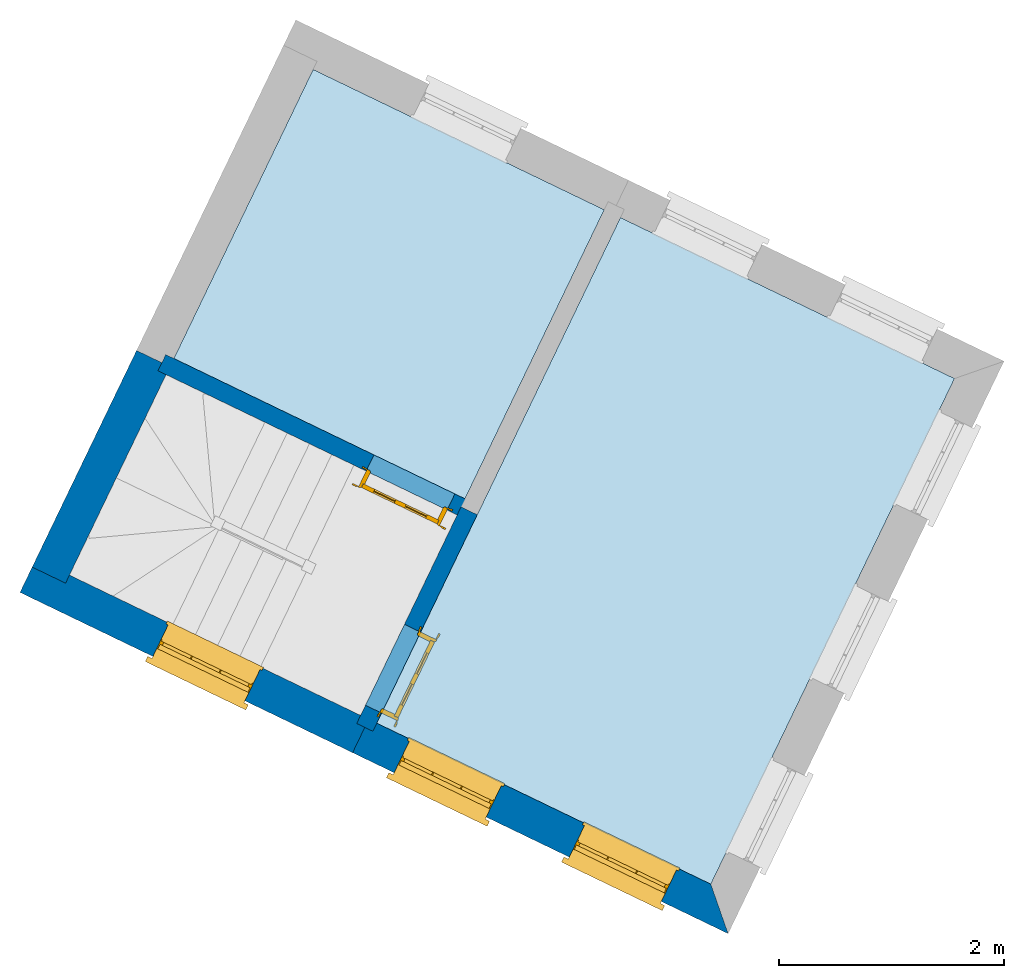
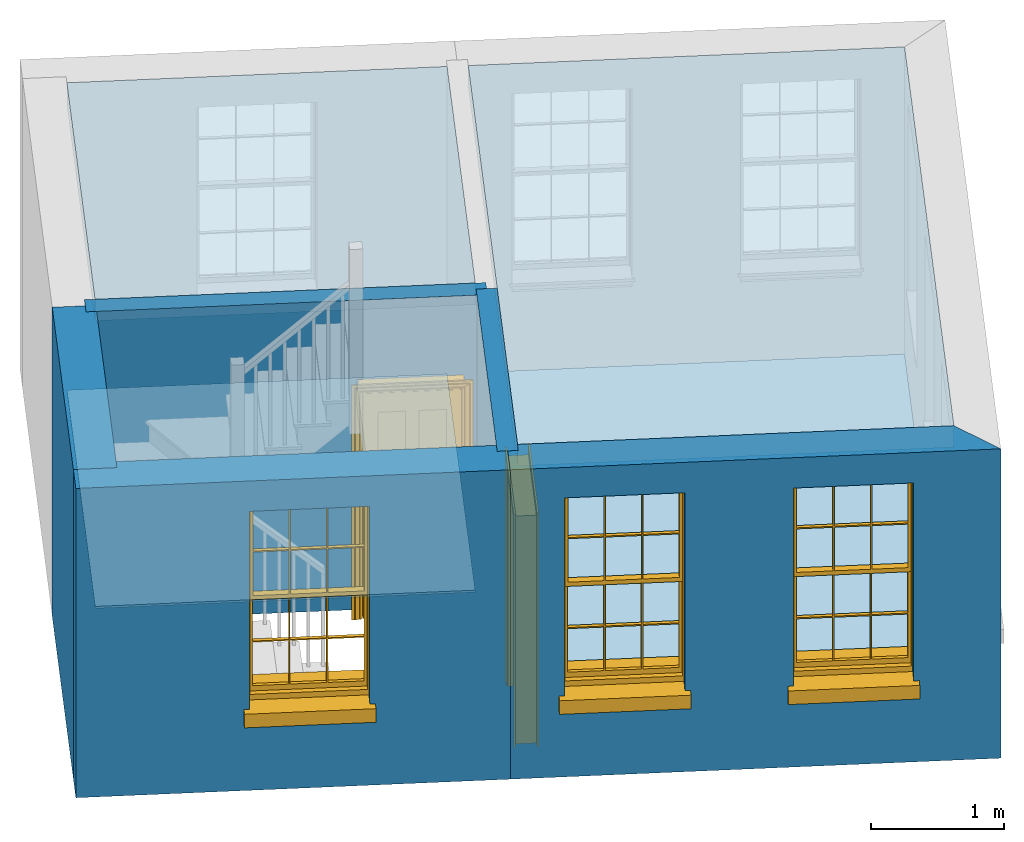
# One storey, part 1 of 3: 5 walls, 4 slabs, 3 windows, 2 doors, 5 openings.
"""IFC4 building model written with IfcOpenShell, lengths in metres."""

import ifcopenshell
import ifcopenshell.guid

model = None  # the IFC model being written
_history = None  # IfcOwnerHistory: only IFC2X3 demands one
_inside = {}  # id of a spatial element -> (the spatial element, [elements in it])
_under = {}  # id of a project, library or spatial element -> (it, [spatial elements below it])
_declared = {}  # id of a project -> (the project, [libraries it declares])
_typed = {}  # id of a type object -> (the type object, [elements of that type])
_made_of = {}  # id of a material, layer set ... -> (it, [elements and type objects made of it])


def new_model(schema):
    """Start an empty IFC model of exactly this schema.

    Asked for "IFC4X3", IfcOpenShell would pick the latest addendum, in which some entities
    have other attributes; the version numbers below select the first issue.
    IFC2X3 requires an IfcOwnerHistory on every rooted entity: one is made here for all.
    """
    global model, _history
    if schema == "IFC4X3":
        model = ifcopenshell.file(schema_version=(4, 3, 0, 0))
    else:
        model = ifcopenshell.file(schema=schema)
    _inside.clear()
    _under.clear()
    _declared.clear()
    _typed.clear()
    _made_of.clear()
    _history = None
    if model.schema == "IFC2X3":
        org = make("IfcOrganization", Name="unknown")
        user = make(
            "IfcPersonAndOrganization",
            ThePerson=make("IfcPerson", FamilyName="unknown"),
            TheOrganization=org,
        )
        app = make(
            "IfcApplication",
            ApplicationDeveloper=org,
            Version="unknown",
            ApplicationFullName="unknown",
            ApplicationIdentifier="unknown",
        )
        _history = make(
            "IfcOwnerHistory",
            OwningUser=user,
            OwningApplication=app,
            ChangeAction="ADDED",
            CreationDate=0,
        )
    return model


def make(cls, **values):
    """One entity of the class cls with the attributes given. An attribute that is None is left unset."""
    return model.create_entity(
        cls, **{name: value for name, value in values.items() if value is not None}
    )


def rooted(cls, **values):
    """An entity with a GlobalId (a new one), such as an element, a storey or a relation."""
    return make(cls, GlobalId=ifcopenshell.guid.new(), OwnerHistory=_history, **values)


def si_unit(unit_type, name, prefix=None):
    """IfcSIUnit, for example si_unit("LENGTHUNIT", "METRE", prefix="MILLI")."""
    return make("IfcSIUnit", UnitType=unit_type, Prefix=prefix, Name=name)


def assignment(units):
    """IfcUnitAssignment: the units of a project."""
    return None if units is None else make("IfcUnitAssignment", Units=units)


def point(xyz):
    """IfcCartesianPoint."""
    return None if xyz is None else make("IfcCartesianPoint", Coordinates=xyz)


def direction(xyz):
    """IfcDirection."""
    return None if xyz is None else make("IfcDirection", DirectionRatios=xyz)


def frame(location, z_axis=None, x_axis=None):
    """IfcAxis2Placement3D, a coordinate frame: its origin and axes. An axis left out is left unset."""
    return make(
        "IfcAxis2Placement3D",
        Location=point(location),
        Axis=direction(z_axis),
        RefDirection=direction(x_axis),
    )


def origin():
    """The frame at (0, 0, 0) with its axes left unset."""
    return frame((0.0, 0.0, 0.0))


def origin_with_axes():
    """The frame at (0, 0, 0) with the z axis (0, 0, 1) and the x axis (1, 0, 0) written out."""
    return frame((0.0, 0.0, 0.0), z_axis=(0.0, 0.0, 1.0), x_axis=(1.0, 0.0, 0.0))


def place(relative_to, where):
    """IfcLocalPlacement: puts the frame where relative to a parent placement (None: the world)."""
    return make(
        "IfcLocalPlacement", PlacementRelTo=relative_to, RelativePlacement=where
    )


def context(
    kind, dimensions, precision=None, world=None, true_north=None, identifier=None
):
    """IfcGeometricRepresentationContext, for example the 3D "Model" context."""
    return make(
        "IfcGeometricRepresentationContext",
        ContextIdentifier=identifier,
        ContextType=kind,
        CoordinateSpaceDimension=dimensions,
        Precision=precision,
        WorldCoordinateSystem=world,
        TrueNorth=true_north,
    )


def subcontext(parent, identifier, kind, view, scale=None):
    """IfcGeometricRepresentationSubContext, for example "Body" below "Model"."""
    return make(
        "IfcGeometricRepresentationSubContext",
        ContextIdentifier=identifier,
        ContextType=kind,
        ParentContext=parent,
        TargetScale=scale,
        TargetView=view,
    )


def project(units=None, contexts=None):
    """IfcProject with its units and contexts."""
    return rooted(
        "IfcProject",
        Name="project",
        RepresentationContexts=contexts,
        UnitsInContext=assignment(units),
    )


def spatial(cls, under=None, at=None, **own):
    """A site, building, storey or space (cls), placed at a placement, below another one or the project."""
    s = rooted(cls, ObjectPlacement=at, **own)
    if under is not None:
        _under.setdefault(under.id(), (under, []))[1].append(s)
    return s


def polyline(points):
    """IfcPolyline through the points."""
    return make("IfcPolyline", Points=[point(p) for p in points])


def outline(outer, holes=None, kind="AREA"):
    """IfcArbitraryClosedProfileDef: a profile drawn as a closed curve; with holes, ...WithVoids."""
    if holes is None:
        return make("IfcArbitraryClosedProfileDef", ProfileType=kind, OuterCurve=outer)
    return make(
        "IfcArbitraryProfileDefWithVoids",
        ProfileType=kind,
        OuterCurve=outer,
        InnerCurves=holes,
    )


def extrude(swept, where, along, depth):
    """IfcExtrudedAreaSolid: the profile swept, set in the frame where, extruded along a direction by depth."""
    return make(
        "IfcExtrudedAreaSolid",
        SweptArea=swept,
        Position=where,
        ExtrudedDirection=direction(along),
        Depth=depth,
    )


def faces_of(points, faces, orient=None, outer=None):
    """IfcFace entities. A face is a list of loops; a loop is a list of indices into points, from 0.

    orient and outer hold one flag for each loop. By default every Orientation is true, the
    first loop of a face is its IfcFaceOuterBound and the others are IfcFaceBound.
    """
    made = []
    for i, loops in enumerate(faces):
        bounds = []
        for j, loop in enumerate(loops):
            is_outer = j == 0 if outer is None else outer[i][j]
            bounds.append(
                make(
                    "IfcFaceOuterBound" if is_outer else "IfcFaceBound",
                    Bound=make("IfcPolyLoop", Polygon=[points[k] for k in loop]),
                    Orientation=True if orient is None else orient[i][j],
                )
            )
        made.append(make("IfcFace", Bounds=bounds))
    return made


def faceted_brep(points, faces, orient=None, outer=None, voids=None):
    """IfcFacetedBrep: a solid bounded by flat faces; with voids (closed shells), ...WithVoids."""
    shared = [point(p) for p in points]
    hull = make("IfcClosedShell", CfsFaces=faces_of(shared, faces, orient, outer))
    if voids is None:
        return make("IfcFacetedBrep", Outer=hull)
    return make(
        "IfcFacetedBrepWithVoids",
        Outer=hull,
        Voids=[
            make(cls, CfsFaces=faces_of(shared, fs, o, b)) for cls, fs, o, b in voids
        ],
    )


def shape(context_of_items, identifier, shape_type, items):
    """IfcShapeRepresentation: the items that make up one representation, for example the "Body"."""
    return make(
        "IfcShapeRepresentation",
        ContextOfItems=context_of_items,
        RepresentationIdentifier=identifier,
        RepresentationType=shape_type,
        Items=items,
    )


def source(mapping_origin, context_of_items, identifier, shape_type, items):
    """IfcRepresentationMap: a shape defined once, which mapped items show again and again."""
    return make(
        "IfcRepresentationMap",
        MappingOrigin=mapping_origin,
        MappedRepresentation=shape(context_of_items, identifier, shape_type, items),
    )


def transform(
    local_origin,
    x_axis=None,
    y_axis=None,
    z_axis=None,
    scale=None,
    scale2=None,
    scale3=None,
    uniform=True,
):
    """IfcCartesianTransformationOperator3D, or its non-uniform kind. x_axis, y_axis, z_axis: its Axis1, 2, 3."""
    if uniform:
        return make(
            "IfcCartesianTransformationOperator3D",
            Axis1=direction(x_axis),
            Axis2=direction(y_axis),
            LocalOrigin=point(local_origin),
            Scale=scale,
            Axis3=direction(z_axis),
        )
    return make(
        "IfcCartesianTransformationOperator3DnonUniform",
        Axis1=direction(x_axis),
        Axis2=direction(y_axis),
        LocalOrigin=point(local_origin),
        Scale=scale,
        Axis3=direction(z_axis),
        Scale2=scale2,
        Scale3=scale3,
    )


def mapped(mapping_source, mapping_target):
    """IfcMappedItem: shows the shape of a source again, moved by a transform."""
    return make(
        "IfcMappedItem", MappingSource=mapping_source, MappingTarget=mapping_target
    )


def material(Name=None, Category=None):
    """IfcMaterial."""
    return make("IfcMaterial", Name=Name, Category=Category)


def layer(
    of_material, thickness, ventilated=None, Name=None, Category=None, Priority=None
):
    """IfcMaterialLayer: one layer of a wall or slab, of a material (None: an air gap)."""
    return make(
        "IfcMaterialLayer",
        Material=of_material,
        LayerThickness=thickness,
        IsVentilated=ventilated,
        Name=Name,
        Category=Category,
        Priority=Priority,
    )


def layer_set(layers, Name=None):
    """IfcMaterialLayerSet."""
    return make("IfcMaterialLayerSet", MaterialLayers=layers, LayerSetName=Name)


def layer_usage(for_layer_set, set_direction, sense, offset, extent=None):
    """IfcMaterialLayerSetUsage: how a layer set lies in its element."""
    return make(
        "IfcMaterialLayerSetUsage",
        ForLayerSet=for_layer_set,
        LayerSetDirection=set_direction,
        DirectionSense=sense,
        OffsetFromReferenceLine=offset,
        ReferenceExtent=extent,
    )


def made_of(thing, what):
    """Note that an element or type object is made of a material, layer set ...; save() writes the relation."""
    if what is not None:
        _made_of.setdefault(what.id(), (what, []))[1].append(thing)
    return thing


def type_object(cls, material=None, **own):
    """A type object (cls), such as IfcWallType, which elements share."""
    return made_of(rooted(cls, **own), material)


def type_shapes(of_type, sources):
    """Give a type object the sources (RepresentationMaps) that its elements show as mapped items."""
    of_type.RepresentationMaps = sources


def element(
    cls,
    number,
    at=None,
    inside=None,
    cuts=None,
    type_object=None,
    material=None,
    context=None,
    identifier="Body",
    shape_type=None,
    held_by="IfcProductDefinitionShape",
    body=None,
    shapes=None,
    **own,
):
    """One element of the class cls, such as IfcWall. Its Tag is "e" and its number.

    at: its placement. inside: the storey or other place that contains it. cuts: it is an
    opening in that element (IfcRelVoidsElement). A single representation is given by context,
    identifier, shape_type and body (its items); several are given by shapes. held_by: the class
    of the entity that holds the representations. save() writes the other relations.
    """
    e = rooted(cls, Tag="e%d" % number, ObjectPlacement=at, **own)
    if body is not None:
        shapes = [shape(context, identifier, shape_type, body)]
    if shapes is not None:
        e.Representation = make(held_by, Representations=shapes)
    if inside is not None:
        _inside.setdefault(inside.id(), (inside, []))[1].append(e)
    if cuts is not None:
        rooted(
            "IfcRelVoidsElement", RelatingBuildingElement=cuts, RelatedOpeningElement=e
        )
    if type_object is not None:
        _typed.setdefault(type_object.id(), (type_object, []))[1].append(e)
    return made_of(e, material)


def fill(opening, filler):
    """IfcRelFillsElement: the door or window that sits in an opening."""
    return rooted(
        "IfcRelFillsElement",
        RelatingOpeningElement=opening,
        RelatedBuildingElement=filler,
    )


def aggregate(whole, parts):
    """IfcRelAggregates: a whole, such as a stair, and the parts it consists of."""
    return rooted("IfcRelAggregates", RelatingObject=whole, RelatedObjects=parts)


def save(model, path):
    """Write the relations noted so far, then the file.

    IfcRelAggregates (storeys below a building ...), IfcRelContainedInSpatialStructure (elements
    in a storey), IfcRelDefinesByType, IfcRelAssociatesMaterial and IfcRelDeclares: one each for
    every whole, place, type object, material and project.
    """
    for whole, parts in _under.values():
        aggregate(whole, parts)
    for where, things in _inside.values():
        rooted(
            "IfcRelContainedInSpatialStructure",
            RelatedElements=things,
            RelatingStructure=where,
        )
    for kind, things in _typed.values():
        rooted("IfcRelDefinesByType", RelatedObjects=things, RelatingType=kind)
    for what, things in _made_of.values():
        rooted("IfcRelAssociatesMaterial", RelatedObjects=things, RelatingMaterial=what)
    for by, libraries in _declared.values():
        rooted("IfcRelDeclares", RelatingContext=by, RelatedDefinitions=libraries)
    model.write(path)


model = new_model("IFC4")

# Units and contexts
model_context = context("Model", 3, world=origin_with_axes())
body_context = subcontext(model_context, "Body", "Model", "MODEL_VIEW")
ifc_project = project(units=[si_unit("PLANEANGLEUNIT", "RADIAN"), si_unit("MASSUNIT", "GRAM", prefix="KILO"), si_unit("FORCEUNIT", "NEWTON", prefix="KILO"), si_unit("LENGTHUNIT", "METRE"), si_unit("AREAUNIT", "SQUARE_METRE"), si_unit("VOLUMEUNIT", "CUBIC_METRE")], contexts=[model_context, model_context])

# Sites, building, storey
site_1_placement = place(None, origin_with_axes())
site_1 = spatial("IfcSite", under=ifc_project, at=site_1_placement, Name="Tamar")
site_2_placement = place(site_1_placement, origin_with_axes())
site_2 = spatial("IfcSite", under=site_1, at=site_2_placement, Name="Site plot-2", CompositionType="ELEMENT")
building_placement = place(None, origin_with_axes())
building = spatial("IfcBuilding", under=site_2, at=building_placement, Name="Building plot-2", CompositionType="ELEMENT")
storey_placement = place(None, frame((0.0, 0.0, 28.7), z_axis=(0.0, 0.0, 1.0), x_axis=(1.0, 0.0, 0.0)))
storey = spatial("IfcBuildingStorey", under=building, at=storey_placement, Name="plot-2 1", CompositionType="ELEMENT", Elevation=28.7)

# Slabs
slab_1_placement = place(storey_placement, frame((235.705211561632, 293.09651386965, 2.65)))
element("IfcSlab", 1, at=slab_1_placement, inside=storey, Name="My Slab", ObjectType="Slab", PredefinedType="FLOOR", context=body_context, shape_type="SweptSolid", body=[
    extrude(outline(polyline([(0.0, 0.0), (-2.97493894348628, 1.43360567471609), (-5.1446913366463, -3.0689440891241), (-2.16975239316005, -4.50254976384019), (0.0, 0.0)])), origin_with_axes(), (0.0, 0.0, 1.0), 0.2),
])
slab_2_placement = place(storey_placement, frame((235.705211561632, 293.09651386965, 0.0)))
element("IfcSlab", 2, at=slab_2_placement, inside=storey, Name="My Slab", ObjectType="Slab", PredefinedType="FLOOR", context=body_context, shape_type="SweptSolid", body=[
    extrude(outline(polyline([(0.0, 0.0), (-2.97493894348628, 1.43360567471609), (-5.1446913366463, -3.0689440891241), (-2.16975239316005, -4.50254976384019), (0.0, 0.0)])), origin_with_axes(), (0.0, 0.0, 1.0), 0.02),
])
slab_3_placement = place(storey_placement, frame((229.993782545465, 295.848818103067, 2.65)))
element("IfcSlab", 3, at=slab_3_placement, inside=storey, Name="My Slab", ObjectType="Slab", PredefinedType="FLOOR", context=body_context, shape_type="SweptSolid", body=[
    extrude(outline(polyline([(0.0, 0.0), (-1.24025928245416, -2.57371723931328), (1.35209378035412, -3.82295701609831), (2.59235306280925, -1.24923977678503), (0.0, 0.0)])), origin_with_axes(), (0.0, 0.0, 1.0), 0.2),
])
slab_4_placement = place(storey_placement, frame((229.993782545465, 295.848818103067, 0.0)))
element("IfcSlab", 4, at=slab_4_placement, inside=storey, Name="My Slab", ObjectType="Slab", PredefinedType="FLOOR", context=body_context, shape_type="SweptSolid", body=[
    extrude(outline(polyline([(0.0, 0.0), (-1.24025928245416, -2.57371723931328), (1.35209378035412, -3.82295701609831), (2.59235306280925, -1.24923977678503), (0.0, 0.0)])), origin_with_axes(), (0.0, 0.0, 1.0), 0.02),
])

# Wall, opening, window
ifc_material_1 = material(Name="Masonry")
ifc_layer_1 = layer(ifc_material_1, 0.33, ventilated=False)
ifc_layer_set_1 = layer_set([ifc_layer_1], Name="exterior_0.08_0.25")
ifc_layer_usage_1 = layer_usage(ifc_layer_set_1, "AXIS2", "POSITIVE", -0.25)
wall_type_1 = type_object("IfcWallType", Name="exterior_0.08_0.25", PredefinedType="SOLIDWALL", material=ifc_layer_set_1)
wall_1_placement = place(storey_placement, frame((227.717232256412, 291.308929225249, 0.0), z_axis=(0.0, 0.0, 1.0), x_axis=(0.900856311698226, -0.434117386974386, 0.0)))
wall_1 = element("IfcWall", 5, at=wall_1_placement, inside=storey, type_object=wall_type_1, material=ifc_layer_usage_1, Name="exterior", context=body_context, shape_type="SweptSolid", body=[
    extrude(outline(polyline([(-0.250000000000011, 0.0800000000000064), (-0.250000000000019, -0.250000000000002), (3.03765432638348, -0.249999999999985), (3.03765432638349, 0.0800000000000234), (-0.250000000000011, 0.0800000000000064)])), origin_with_axes(), (0.0, 0.0, 1.0), 2.85),
])
opening_1_placement = place(wall_1_placement, frame((1.06382716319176, 0.0, 0.75)))
opening_1 = element("IfcOpeningElement", 6, at=opening_1_placement, cuts=wall_1, Name="My Opening", ObjectType="Opening", context=body_context, shape_type="SweptSolid", body=[
    extrude(outline(polyline([(0.0, -0.269999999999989), (0.909999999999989, -0.27), (0.909999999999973, 1.10000000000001), (-1.62092561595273e-14, 1.10000000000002), (0.0, -0.269999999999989)])), origin_with_axes(), (0.0, 0.0, 1.0), 1.82),
])
window_type = type_object("IfcWindowType", Name="sash_big", PartitioningType="DOUBLE_PANEL_HORIZONTAL", PredefinedType="NOTDEFINED")
shared_shape_1 = source(origin(), body_context, "Body", "Brep", [
    faceted_brep([(0.033125, 0.145, 0.975209), (0.01, 0.145, 0.975209), (0.033125, 0.145, 1.376042), (0.876875, 0.145, 0.975209), (0.876875, 0.145, 1.376042), (0.9, 0.145, 0.975209), (0.876875, 0.145, 1.386042), (0.876875, 0.145, 1.786875), (0.9, 0.145, 1.81), (0.033125, 0.145, 1.786875), (0.033125, 0.145, 1.386042), (0.01, 0.145, 1.81), (0.876875, 0.115, 1.376042), (0.876875, 0.115, 0.975209), (0.9, 0.115, 0.937083), (0.033125, 0.115, 1.786875), (0.01, 0.115, 1.81), (0.033125, 0.115, 1.386042), (0.01, 0.115, 0.937083), (0.033125, 0.115, 0.975209), (0.033125, 0.115, 1.376042), (0.876875, 0.115, 1.786875), (0.876875, 0.115, 1.386042), (0.9, 0.115, 1.81), (0.033125, 0.145, 0.937083), (0.01, 0.145, 0.937083), (0.033125, 0.145, 0.53625), (0.876875, 0.145, 0.937083), (0.876875, 0.145, 0.53625), (0.9, 0.145, 0.937083), (0.876875, 0.145, 0.52625), (0.876875, 0.145, 0.125417), (0.9, 0.145, 0.077167), (0.033125, 0.145, 0.125417), (0.033125, 0.145, 0.52625), (0.01, 0.145, 0.077167), (-0.0425, 0.0, 0.01), (-0.0425, -0.05, 0.001667), (0.0, 0.0, 0.01), (0.9525, 0.0, 0.01), (0.91, 0.0, 0.01), (0.9525, -0.05, 0.001667), (-0.02, 0.33, 0.077167), (0.0, 0.33, 0.077167), (-0.02, 0.36, 0.077167), (0.0, 0.19, 0.077167), (0.01, 0.19, 0.077167), (0.91, 0.19, 0.077167), (0.91, 0.33, 0.077167), (0.9, 0.19, 0.077167), (0.93, 0.33, 0.077167), (0.93, 0.36, 0.077167), (0.01, 0.175, 0.975209), (0.9, 0.175, 0.975209), (0.876875, 0.175, 0.125417), (0.876875, 0.175, 0.52625), (0.9, 0.175, 0.077167), (0.876875, 0.175, 0.53625), (0.876875, 0.175, 0.937083), (0.033125, 0.175, 0.125417), (0.01, 0.175, 0.077167), (0.033125, 0.175, 0.52625), (0.033125, 0.175, 0.937083), (0.033125, 0.175, 0.53625), (-0.02, 0.33, 0.052167), (-0.02, 0.36, 0.052167), (0.93, 0.36, 0.052167), (0.93, 0.33, 0.052167), (0.91, 0.33, 0.052167), (0.0, 0.33, 0.052167), (0.91, 0.1, 0.026667), (0.0, 0.1, 0.026667), (-0.0425, -0.05, -0.123333), (0.9525, -0.05, -0.123333), (-0.0425, 0.0, -0.123333), (0.9525, 0.0, -0.123333), (0.01, 0.19, 1.81), (0.9, 0.19, 1.81), (0.0, 0.19, 1.82), (0.91, 0.19, 1.82), (0.01, 0.1, 0.077167), (0.9, 0.1, 0.077167), (0.592292, 0.145, 0.125417), (0.592292, 0.175, 0.125417), (0.317708, 0.175, 0.125417), (0.317708, 0.145, 0.125417), (0.592292, 0.145, 0.53625), (0.317708, 0.145, 0.53625), (0.317708, 0.145, 0.52625), (0.592292, 0.145, 0.52625), (0.592292, 0.175, 0.53625), (0.317708, 0.175, 0.53625), (0.592292, 0.115, 1.386042), (0.592292, 0.145, 1.386042), (0.317708, 0.145, 1.386042), (0.317708, 0.115, 1.386042), (0.317708, 0.115, 1.376042), (0.592292, 0.115, 1.376042), (0.317708, 0.145, 1.376042), (0.592292, 0.145, 1.376042), (0.602292, 0.115, 1.376042), (0.592292, 0.115, 0.975209), (0.602292, 0.115, 0.975209), (0.602292, 0.145, 0.975209), (0.592292, 0.145, 0.975209), (0.602292, 0.145, 1.376042), (0.602292, 0.175, 0.53625), (0.602292, 0.145, 0.53625), (0.317708, 0.175, 0.52625), (0.307708, 0.175, 0.125417), (0.307708, 0.175, 0.52625), (0.602292, 0.175, 0.52625), (0.602292, 0.175, 0.125417), (0.592292, 0.175, 0.52625), (0.307708, 0.175, 0.53625), (0.317708, 0.175, 0.937083), (0.307708, 0.175, 0.937083), (0.602292, 0.175, 0.937083), (0.592292, 0.175, 0.937083), (0.307708, 0.145, 0.52625), (0.307708, 0.145, 0.125417), (0.307708, 0.145, 0.53625), (0.307708, 0.145, 0.937083), (0.592292, 0.145, 0.937083), (0.317708, 0.145, 0.937083), (0.602292, 0.145, 0.937083), (0.602292, 0.145, 0.52625), (0.602292, 0.145, 0.125417), (0.307708, 0.115, 1.386042), (0.307708, 0.115, 1.376042), (0.307708, 0.115, 0.975209), (0.317708, 0.115, 0.975209), (0.317708, 0.115, 1.786875), (0.307708, 0.115, 1.786875), (0.602292, 0.115, 1.786875), (0.592292, 0.115, 1.786875), (0.602292, 0.115, 1.386042), (0.602292, 0.145, 1.386042), (0.307708, 0.145, 1.386042), (0.307708, 0.145, 1.786875), (0.317708, 0.145, 1.786875), (0.592292, 0.145, 1.786875), (0.602292, 0.145, 1.786875), (0.307708, 0.145, 1.376042), (0.317708, 0.145, 0.975209), (0.307708, 0.145, 0.975209), (0.91, 0.1, 1.82), (0.9, 0.1, 1.81), (0.01, 0.1, 1.81), (0.0, 0.1, 1.82), (0.91, 0.0, 0.0), (0.0, 0.0, 0.0), (0.91, 0.33, 0.0), (0.0, 0.33, 0.0)], [[[0, 1, 2]], [[3, 4, 5]], [[6, 7, 8]], [[9, 10, 11]], [[12, 13, 14]], [[15, 16, 17]], [[18, 19, 20]], [[21, 22, 23]], [[24, 25, 26]], [[27, 28, 29]], [[30, 31, 32]], [[33, 34, 35]], [[14, 27, 29]], [[25, 24, 18]], [[36, 37, 38]], [[39, 40, 41]], [[42, 43, 44]], [[45, 46, 43]], [[47, 48, 49]], [[50, 51, 48]], [[1, 0, 52]], [[5, 53, 3]], [[54, 55, 56]], [[57, 58, 53]], [[59, 60, 61]], [[62, 63, 52]], [[48, 43, 46, 49]], [[51, 44, 43, 48]], [[64, 42, 44, 65]], [[65, 44, 51, 66]], [[66, 51, 50, 67]], [[65, 66, 68, 69]], [[60, 56, 49, 46]], [[70, 71, 38, 40]], [[37, 41, 40, 38]], [[37, 72, 73, 41]], [[74, 75, 73, 72]], [[8, 11, 76, 77]], [[76, 78, 79, 77]], [[32, 35, 80, 81]], [[81, 80, 71, 70]], [[82, 83, 84, 85]], [[86, 87, 88, 89]], [[86, 90, 91, 87]], [[92, 93, 94, 95]], [[92, 95, 96, 97]], [[96, 98, 99, 97]], [[100, 97, 101, 102]], [[103, 104, 99, 105]], [[97, 99, 104, 101]], [[102, 103, 105, 100]], [[28, 57, 106, 107]], [[108, 84, 109, 110]], [[111, 112, 83, 113]], [[114, 110, 61, 63]], [[90, 113, 108, 91]], [[115, 91, 114, 116]], [[117, 106, 90, 118]], [[111, 106, 57, 55]], [[119, 110, 109, 120]], [[34, 61, 110, 119]], [[89, 113, 83, 82]], [[88, 108, 113, 89]], [[85, 84, 108, 88]], [[121, 114, 63, 26]], [[122, 116, 114, 121]], [[123, 118, 90, 86]], [[87, 91, 115, 124]], [[107, 106, 117, 125]], [[126, 111, 55, 30]], [[127, 112, 111, 126]], [[126, 30, 28, 107]], [[88, 119, 120, 85]], [[126, 89, 82, 127]], [[125, 123, 86, 107]], [[121, 26, 34, 119]], [[124, 122, 121, 87]], [[128, 17, 20, 129]], [[96, 129, 130, 131]], [[132, 133, 128, 95]], [[134, 135, 92, 136]], [[100, 12, 22, 136]], [[137, 6, 4, 105]], [[94, 138, 139, 140]], [[137, 93, 141, 142]], [[99, 98, 94, 93]], [[143, 2, 10, 138]], [[144, 145, 143, 98]], [[129, 143, 145, 130]], [[20, 2, 143, 129]], [[131, 144, 98, 96]], [[128, 138, 10, 17]], [[133, 139, 138, 128]], [[135, 141, 93, 92]], [[95, 94, 140, 132]], [[22, 6, 137, 136]], [[136, 137, 142, 134]], [[100, 105, 4, 12]], [[107, 86, 89, 126]], [[106, 111, 113, 90]], [[91, 108, 110, 114]], [[87, 121, 119, 88]], [[97, 100, 136, 92]], [[129, 96, 95, 128]], [[98, 143, 138, 94]], [[105, 99, 93, 137]], [[131, 101, 104, 144]], [[124, 115, 118, 123]], [[132, 140, 141, 135]], [[120, 109, 59, 33]], [[15, 9, 139, 133]], [[134, 142, 7, 21]], [[31, 54, 112, 127]], [[36, 74, 72, 37]], [[39, 41, 73, 75]], [[18, 14, 101, 131]], [[23, 16, 132, 135]], [[83, 56, 60, 84]], [[52, 53, 118, 115]], [[53, 52, 144, 104]], [[11, 8, 141, 140]], [[14, 18, 124, 123]], [[2, 1, 11, 10]], [[8, 5, 4, 6]], [[57, 53, 56, 55]], [[60, 52, 63, 61]], [[26, 25, 35, 34]], [[32, 29, 28, 30]], [[14, 23, 22, 12]], [[18, 20, 17, 16]], [[19, 0, 2, 20]], [[17, 10, 9, 15]], [[12, 4, 3, 13]], [[21, 7, 6, 22]], [[27, 58, 57, 28]], [[30, 55, 54, 31]], [[33, 59, 61, 34]], [[26, 63, 62, 24]], [[5, 8, 77, 53]], [[76, 11, 1, 52]], [[46, 45, 78, 76]], [[49, 77, 79, 47]], [[70, 146, 147, 81]], [[71, 80, 148, 149]], [[19, 130, 145, 0]], [[102, 13, 3, 103]], [[116, 122, 24, 62]], [[29, 32, 81, 14]], [[80, 35, 25, 18]], [[60, 46, 76, 52]], [[77, 49, 56, 53]], [[23, 14, 81, 147]], [[16, 148, 80, 18]], [[35, 85, 120]], [[120, 33, 35]], [[127, 82, 32]], [[32, 31, 127]], [[32, 82, 85, 35]], [[102, 101, 14]], [[14, 13, 102]], [[18, 131, 130]], [[130, 19, 18]], [[134, 21, 23]], [[23, 135, 134]], [[16, 15, 133]], [[133, 132, 16]], [[11, 140, 139]], [[139, 9, 11]], [[142, 141, 8]], [[8, 7, 142]], [[23, 147, 148, 16]], [[146, 149, 148, 147]], [[52, 115, 116]], [[116, 62, 52]], [[118, 53, 117]], [[58, 117, 53]], [[27, 125, 117, 58]], [[56, 83, 112]], [[112, 54, 56]], [[109, 84, 60]], [[60, 59, 109]], [[125, 27, 14]], [[14, 123, 125]], [[122, 124, 18]], [[18, 24, 122]], [[145, 144, 52]], [[52, 0, 145]], [[103, 3, 53]], [[53, 104, 103]], [[79, 78, 149, 146]], [[78, 45, 71, 149]], [[146, 70, 47, 79]], [[150, 75, 74, 151]], [[68, 66, 67]], [[48, 68, 67, 50]], [[69, 64, 65]], [[42, 64, 69, 43]], [[69, 68, 152, 153]], [[70, 68, 48, 47]], [[150, 152, 68, 70]], [[43, 69, 71, 45]], [[69, 153, 151, 71]], [[152, 150, 151, 153]], [[38, 151, 74, 36]], [[71, 151, 38]], [[39, 75, 150, 40]], [[40, 150, 70]]]),
])
type_shapes(window_type, [shared_shape_1])
window_1_placement = place(storey_placement, frame((228.558375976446, 290.603872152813, 0.75), z_axis=(0.0, 0.0, 1.0), x_axis=(0.819779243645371, -0.395046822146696, 0.0)))
window_1 = element("IfcWindow", 7, at=window_1_placement, inside=storey, type_object=window_type, Name="circulation outside window", OverallHeight=1.82, OverallWidth=0.91, context=body_context, shape_type="MappedRepresentation", body=[
    mapped(shared_shape_1, transform((0.0, 0.0, 0.0), scale=1.0)),
])
fill(opening_1, window_1)

# Wall, openings, windows
wall_2_placement = place(storey_placement, frame((230.453722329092, 289.990230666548, 0.0), z_axis=(0.0, 0.0, 1.0), x_axis=(0.900856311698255, -0.434117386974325, 0.0)))
wall_2 = element("IfcWall", 8, at=wall_2_placement, inside=storey, type_object=wall_type_1, material=ifc_layer_usage_1, Name="exterior", context=body_context, shape_type="SweptSolid", body=[
    extrude(outline(polyline([(-7.8110715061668e-15, 0.0800000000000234), (-3.77935070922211e-14, -0.249999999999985), (3.71234567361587, -0.250000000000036), (3.38234567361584, 0.0800000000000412), (-7.8110715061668e-15, 0.0800000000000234)])), origin_with_axes(), (0.0, 0.0, 1.0), 2.85),
])
opening_2_placement = place(wall_2_placement, frame((0.410586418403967, 0.0, 0.75)))
opening_2 = element("IfcOpeningElement", 9, at=opening_2_placement, cuts=wall_2, Name="My Opening", ObjectType="Opening", context=body_context, shape_type="SweptSolid", body=[
    extrude(outline(polyline([(0.0, -0.269999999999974), (0.90999999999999, -0.269999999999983), (0.910000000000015, 1.1), (2.53130849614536e-14, 1.10000000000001), (0.0, -0.269999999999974)])), origin_with_axes(), (0.0, 0.0, 1.0), 1.82),
])
opening_3_placement = place(wall_2_placement, frame((2.14175925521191, 0.0, 0.75)))
opening_3 = element("IfcOpeningElement", 10, at=opening_3_placement, cuts=wall_2, Name="My Opening", ObjectType="Opening", context=body_context, shape_type="SweptSolid", body=[
    extrude(outline(polyline([(0.0, -0.270000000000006), (0.90999999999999, -0.270000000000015), (0.910000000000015, 1.09999999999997), (2.53130849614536e-14, 1.09999999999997), (0.0, -0.270000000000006)])), origin_with_axes(), (0.0, 0.0, 1.0), 1.82),
])
window_2_placement = place(storey_placement, frame((230.706390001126, 289.568756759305, 0.75), z_axis=(0.0, 0.0, 1.0), x_axis=(0.819779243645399, -0.395046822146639, 0.0)))
window_2 = element("IfcWindow", 11, at=window_2_placement, inside=storey, type_object=window_type, Name="bedroom outside window", OverallHeight=1.82, OverallWidth=0.91, context=body_context, shape_type="MappedRepresentation", body=[
    mapped(shared_shape_1, transform((0.0, 0.0, 0.0), scale=1.0)),
])
fill(opening_2, window_2)
window_3_placement = place(storey_placement, frame((232.265927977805, 288.817224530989, 0.75), z_axis=(0.0, 0.0, 1.0), x_axis=(0.819779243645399, -0.395046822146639, 0.0)))
window_3 = element("IfcWindow", 12, at=window_3_placement, inside=storey, type_object=window_type, Name="bedroom outside window", OverallHeight=1.82, OverallWidth=0.91, context=body_context, shape_type="MappedRepresentation", body=[
    mapped(shared_shape_1, transform((0.0, 0.0, 0.0), scale=1.0)),
])
fill(opening_3, window_3)

# Wall
ifc_material_2 = material(Name="Masonry")
ifc_layer_2 = layer(ifc_material_2, 0.33, ventilated=False)
ifc_layer_set_2 = layer_set([ifc_layer_2], Name="party_0.08_0.25")
ifc_layer_usage_2 = layer_usage(ifc_layer_set_2, "AXIS2", "POSITIVE", -0.25)
wall_type_2 = type_object("IfcWallType", Name="party_0.08_0.25", PredefinedType="SOLIDWALL", material=ifc_layer_set_2)
wall_3_placement = place(storey_placement, frame((228.646725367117, 293.237761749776, 0.0), z_axis=(0.0, 0.0, 1.0), x_axis=(-0.43411738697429, -0.900856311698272, 0.0)))
element("IfcWall", 13, at=wall_3_placement, inside=storey, type_object=wall_type_2, material=ifc_layer_usage_2, Name="party", context=body_context, shape_type="SweptSolid", body=[
    extrude(outline(polyline([(-1.7991426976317e-14, 0.0799999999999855), (-9.64363222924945e-15, -0.249999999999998), (2.14111007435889, -0.249999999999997), (2.14111007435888, 0.0799999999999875), (-1.7991426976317e-14, 0.0799999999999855)])), origin_with_axes(), (0.0, 0.0, 1.0), 2.85),
])

# Wall, opening, door
ifc_material_3 = material(Name="Masonry")
ifc_layer_3 = layer(ifc_material_3, 0.16, ventilated=False)
ifc_layer_set_3 = layer_set([ifc_layer_3], Name="interior_0.08_0.08")
ifc_layer_usage_3 = layer_usage(ifc_layer_set_3, "AXIS2", "POSITIVE", -0.08)
wall_type_3 = type_object("IfcWallType", Name="interior_0.08_0.08", PredefinedType="SOLIDWALL", material=ifc_layer_set_3)
wall_4_placement = place(storey_placement, frame((231.383215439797, 291.919063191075, 0.0), z_axis=(0.0, 0.0, 1.0), x_axis=(-0.434117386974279, -0.900856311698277, 0.0)))
wall_4 = element("IfcWall", 14, at=wall_4_placement, inside=storey, type_object=wall_type_3, material=ifc_layer_usage_3, Name="interior", context=body_context, shape_type="SweptSolid", body=[
    extrude(outline(polyline([(-1.69966671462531e-14, 0.0799999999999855), (1.69513428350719e-14, -0.0799999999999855), (2.14111007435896, -0.0799999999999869), (2.14111007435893, 0.0799999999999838), (-1.69966671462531e-14, 0.0799999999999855)])), origin_with_axes(), (0.0, 0.0, 1.0), 2.85),
])
opening_4_placement = place(wall_4_placement, frame((1.16111007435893, 0.0, 0.0199999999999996)))
opening_4 = element("IfcOpeningElement", 15, at=opening_4_placement, cuts=wall_4, Name="My Opening", ObjectType="Opening", context=body_context, shape_type="SweptSolid", body=[
    extrude(outline(polyline([(0.0, -0.100000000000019), (0.800000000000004, -0.100000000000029), (0.800000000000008, 1.1), (3.5527136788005e-15, 1.10000000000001), (0.0, -0.100000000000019)])), origin_with_axes(), (0.0, 0.0, 1.0), 2.1),
])
door_type = type_object("IfcDoorType", Name="door_inside", OperationType="SINGLE_SWING_LEFT", PredefinedType="NOTDEFINED")
shared_shape_2 = source(origin(), body_context, "Body", "Brep", [
    faceted_brep([(0.773, 0.33, 1.895), (0.66, 0.33, 1.895), (0.66, 0.33, 2.073), (0.773, 0.33, 2.073), (0.773, 0.33, 0.82), (0.66, 0.33, 0.82), (0.45, 0.33, 1.895), (0.45, 0.33, 2.073), (0.773, 0.33, 0.62), (0.66, 0.33, 0.62), (0.66, 0.315, 0.82), (0.66, 0.315, 1.895), (0.45, 0.315, 1.895), (0.35, 0.33, 1.895), (0.35, 0.33, 2.073), (0.773, 0.33, 0.225), (0.66, 0.33, 0.225), (0.45, 0.33, 0.62), (0.45, 0.33, 0.82), (0.45, 0.315, 0.82), (0.35, 0.33, 0.82), (0.14, 0.33, 2.073), (0.14, 0.33, 1.895), (0.773, 0.33, 0.0), (0.66, 0.33, 0.0), (0.66, 0.315, 0.225), (0.66, 0.315, 0.62), (0.45, 0.315, 0.62), (0.35, 0.33, 0.62), (0.35, 0.315, 0.82), (0.35, 0.315, 1.895), (0.14, 0.315, 1.895), (0.027, 0.33, 2.073), (0.027, 0.33, 1.895), (0.773, 0.292, 0.0), (0.66, 0.292, 0.0), (0.45, 0.33, 0.0), (0.45, 0.33, 0.225), (0.45, 0.315, 0.225), (0.35, 0.33, 0.225), (0.14, 0.33, 0.82), (0.14, 0.33, 0.62), (0.14, 0.315, 0.82), (0.027, 0.33, 0.82), (0.773, 0.292, 0.225), (0.66, 0.292, 0.225), (0.45, 0.292, 0.0), (0.35, 0.33, 0.0), (0.35, 0.315, 0.225), (0.35, 0.315, 0.62), (0.14, 0.315, 0.62), (0.027, 0.33, 0.62), (0.773, 0.292, 0.62), (0.66, 0.292, 0.62), (0.45, 0.292, 0.225), (0.35, 0.292, 0.0), (0.14, 0.33, 0.225), (0.14, 0.33, 0.0), (0.14, 0.315, 0.225), (0.027, 0.33, 0.225), (0.773, 0.292, 0.82), (0.66, 0.292, 0.82), (0.66, 0.307, 0.62), (0.66, 0.307, 0.225), (0.45, 0.307, 0.225), (0.35, 0.292, 0.225), (0.14, 0.292, 0.0), (0.027, 0.33, 0.0), (0.773, 0.292, 1.895), (0.66, 0.292, 1.895), (0.45, 0.292, 0.62), (0.45, 0.292, 0.82), (0.45, 0.307, 0.62), (0.35, 0.292, 0.62), (0.14, 0.292, 0.225), (0.027, 0.292, 0.0), (0.773, 0.292, 2.073), (0.66, 0.292, 2.073), (0.66, 0.307, 1.895), (0.66, 0.307, 0.82), (0.45, 0.307, 0.82), (0.35, 0.292, 0.82), (0.35, 0.307, 0.62), (0.35, 0.307, 0.225), (0.14, 0.307, 0.225), (0.027, 0.292, 0.225), (0.45, 0.292, 1.895), (0.45, 0.292, 2.073), (0.45, 0.307, 1.895), (0.35, 0.292, 1.895), (0.14, 0.292, 0.82), (0.14, 0.292, 0.62), (0.14, 0.307, 0.62), (0.027, 0.292, 0.62), (0.35, 0.292, 2.073), (0.35, 0.307, 1.895), (0.35, 0.307, 0.82), (0.14, 0.307, 0.82), (0.027, 0.292, 0.82), (0.14, 0.292, 2.073), (0.14, 0.292, 1.895), (0.14, 0.307, 1.895), (0.027, 0.292, 1.895), (0.027, 0.292, 2.073), (0.02, 0.335, 0.0), (0.005, 0.34, 0.0), (0.005, 0.34, 2.095), (0.02, 0.335, 2.08), (0.02, 0.33, 0.0), (0.0, 0.335, 0.0), (0.0, 0.335, 2.1), (0.795, 0.34, 2.095), (0.78, 0.335, 2.08), (0.02, 0.33, 2.08), (0.0, 0.33, 0.0), (-0.032, 0.345, 0.0), (-0.032, 0.345, 2.132), (0.8, 0.335, 2.1), (0.795, 0.34, 0.0), (0.78, 0.335, 0.0), (0.78, 0.33, 2.08), (0.04, 0.29, 0.0), (0.025, 0.29, 0.0), (0.025, 0.29, 2.075), (0.04, 0.29, 2.06), (-0.04, 0.34, 0.0), (-0.04, 0.34, 2.14), (0.832, 0.345, 2.132), (0.8, 0.335, 0.0), (0.78, 0.33, 0.0), (0.8, 0.33, 0.0), (0.86, 0.33, 0.0), (0.86, 0.33, 2.16), (0.8, 0.33, 2.1), (-0.06, 0.33, 2.16), (0.0, 0.33, 2.1), (-0.06, 0.33, 0.0), (-0.04, 0.345, 0.0), (-0.04, 0.345, 2.14), (0.84, 0.34, 2.14), (0.832, 0.345, 0.0), (0.84, 0.34, 0.0), (0.86, 0.345, 0.0), (0.86, 0.345, 2.16), (-0.06, 0.345, 2.16), (-0.06, 0.345, 0.0), (0.84, 0.345, 0.0), (0.84, 0.345, 2.14), (-0.025, 0.155, 0.0), (-0.025, 0.16, 0.0), (-0.025, 0.16, 2.125), (-0.025, 0.155, 2.125), (-0.017, 0.155, 0.0), (-0.017, 0.155, 2.117), (0.825, 0.16, 2.125), (0.825, 0.155, 2.125), (0.825, 0.155, 0.0), (0.845, 0.155, 0.0), (-0.045, 0.155, 2.145), (-0.045, 0.155, 0.0), (0.845, 0.155, 2.145), (0.015, 0.165, 0.0), (0.015, 0.165, 2.085), (0.817, 0.155, 2.117), (0.825, 0.16, 0.0), (0.845, 0.17, 0.0), (0.845, 0.17, 2.145), (-0.045, 0.17, 2.145), (-0.045, 0.17, 0.0), (0.02, 0.16, 0.0), (0.02, 0.16, 2.08), (0.785, 0.165, 2.085), (0.817, 0.155, 0.0), (0.8, 0.17, 0.0), (0.8, 0.17, 2.1), (0.0, 0.17, 2.1), (0.0, 0.17, 0.0), (0.035, 0.165, 0.0), (0.035, 0.165, 2.065), (0.78, 0.16, 2.08), (0.785, 0.165, 0.0), (0.775, 0.29, 2.075), (0.76, 0.29, 2.06), (0.035, 0.17, 2.065), (0.035, 0.17, 0.0), (0.765, 0.165, 2.065), (0.78, 0.16, 0.0), (0.765, 0.17, 0.0), (0.765, 0.17, 2.065), (0.765, 0.165, 0.0), (0.04, 0.17, 2.06), (0.04, 0.17, 0.0), (0.76, 0.17, 2.06), (0.76, 0.17, 0.0), (0.76, 0.29, 0.0), (0.775, 0.29, 0.0), (0.025, 0.33, 0.0), (0.025, 0.33, 2.075), (0.775, 0.33, 0.0), (0.775, 0.33, 2.075)], [[[0, 1, 2, 3]], [[1, 0, 4, 5]], [[1, 6, 7, 2]], [[8, 9, 5, 4]], [[1, 5, 10, 11]], [[6, 1, 11, 12]], [[6, 13, 14, 7]], [[15, 16, 9, 8]], [[9, 17, 18, 5]], [[5, 18, 19, 10]], [[10, 19, 12, 11]], [[18, 6, 12, 19]], [[18, 20, 13, 6]], [[21, 14, 13, 22]], [[23, 24, 16, 15]], [[9, 16, 25, 26]], [[17, 9, 26, 27]], [[17, 28, 20, 18]], [[13, 20, 29, 30]], [[22, 13, 30, 31]], [[32, 21, 22, 33]], [[34, 35, 24, 23]], [[24, 36, 37, 16]], [[16, 37, 38, 25]], [[25, 38, 27, 26]], [[37, 17, 27, 38]], [[37, 39, 28, 17]], [[40, 20, 28, 41]], [[20, 40, 42, 29]], [[31, 30, 29, 42]], [[40, 22, 31, 42]], [[33, 22, 40, 43]], [[35, 34, 44, 45]], [[35, 46, 36, 24]], [[36, 47, 39, 37]], [[28, 39, 48, 49]], [[41, 28, 49, 50]], [[43, 40, 41, 51]], [[45, 44, 52, 53]], [[46, 35, 45, 54]], [[46, 55, 47, 36]], [[56, 39, 47, 57]], [[39, 56, 58, 48]], [[50, 49, 48, 58]], [[56, 41, 50, 58]], [[51, 41, 56, 59]], [[53, 52, 60, 61]], [[45, 53, 62, 63]], [[54, 45, 63, 64]], [[55, 46, 54, 65]], [[55, 66, 57, 47]], [[59, 56, 57, 67]], [[61, 60, 68, 69]], [[70, 53, 61, 71]], [[53, 70, 72, 62]], [[72, 64, 63, 62]], [[70, 54, 64, 72]], [[65, 54, 70, 73]], [[65, 74, 66, 55]], [[67, 57, 66, 75]], [[69, 68, 76, 77]], [[61, 69, 78, 79]], [[71, 61, 79, 80]], [[73, 70, 71, 81]], [[65, 73, 82, 83]], [[74, 65, 83, 84]], [[74, 85, 75, 66]], [[86, 69, 77, 87]], [[69, 86, 88, 78]], [[88, 80, 79, 78]], [[86, 71, 80, 88]], [[81, 71, 86, 89]], [[73, 81, 90, 91]], [[73, 91, 92, 82]], [[83, 82, 92, 84]], [[91, 74, 84, 92]], [[91, 93, 85, 74]], [[89, 86, 87, 94]], [[81, 89, 95, 96]], [[90, 81, 96, 97]], [[90, 98, 93, 91]], [[94, 99, 100, 89]], [[89, 100, 101, 95]], [[101, 97, 96, 95]], [[100, 90, 97, 101]], [[100, 102, 98, 90]], [[99, 103, 102, 100]], [[32, 103, 99, 21]], [[102, 103, 32, 33]], [[98, 102, 33, 43]], [[21, 99, 94, 14]], [[94, 87, 7, 14]], [[7, 87, 77, 2]], [[76, 3, 2, 77]], [[43, 51, 93, 98]], [[51, 59, 85, 93]], [[67, 75, 85, 59]], [[34, 23, 15, 44]], [[44, 15, 8, 52]], [[52, 8, 4, 60]], [[0, 68, 60, 4]], [[0, 3, 76, 68]], [[104, 105, 106, 107]], [[104, 108, 109, 105]], [[105, 109, 110, 106]], [[107, 106, 111, 112]], [[107, 113, 108, 104]], [[114, 109, 108]], [[109, 115, 116, 110]], [[106, 110, 117, 111]], [[112, 111, 118, 119]], [[113, 107, 112, 120]], [[121, 122, 123, 124]], [[115, 109, 114, 125]], [[115, 125, 126, 116]], [[110, 116, 127, 117]], [[111, 117, 128, 118]], [[118, 128, 129, 119]], [[120, 112, 119, 129]], [[130, 129, 128]], [[130, 131, 132, 133]], [[133, 132, 134, 135]], [[135, 134, 136, 114]], [[136, 125, 114]], [[125, 137, 138, 126]], [[116, 126, 139, 127]], [[117, 127, 140, 128]], [[141, 130, 128, 140]], [[131, 130, 141]], [[131, 142, 143, 132]], [[132, 143, 144, 134]], [[134, 144, 145, 136]], [[137, 125, 136, 145]], [[143, 142, 146]], [[143, 146, 147]], [[137, 145, 144]], [[143, 147, 138]], [[138, 137, 144]], [[143, 138, 144]], [[126, 138, 147, 139]], [[127, 139, 141, 140]], [[142, 131, 141, 146]], [[139, 147, 146, 141]], [[148, 149, 150, 151]], [[149, 152, 153, 150]], [[151, 150, 154, 155]], [[155, 156, 157]], [[158, 159, 148]], [[158, 148, 151]], [[155, 157, 160]], [[158, 151, 155]], [[155, 160, 158]], [[152, 161, 162, 153]], [[150, 153, 163, 154]], [[155, 154, 164, 156]], [[156, 164, 165, 157]], [[157, 165, 166, 160]], [[160, 166, 167, 158]], [[158, 167, 168, 159]], [[161, 169, 170, 162]], [[153, 162, 171, 163]], [[154, 163, 172, 164]], [[165, 164, 173]], [[165, 173, 174, 166]], [[166, 174, 175, 167]], [[167, 175, 176, 168]], [[169, 177, 178, 170]], [[162, 170, 179, 171]], [[163, 171, 180, 172]], [[172, 180, 173, 164]], [[124, 123, 181, 182]], [[183, 178, 177, 184]], [[170, 178, 185, 179]], [[171, 179, 186, 180]], [[187, 173, 180]], [[185, 188, 187, 189]], [[188, 185, 178, 183]], [[179, 185, 189, 186]], [[189, 187, 180, 186]], [[190, 183, 184, 191]], [[192, 188, 183, 190]], [[191, 184, 122, 121]], [[124, 190, 191, 121]], [[193, 187, 188, 192]], [[182, 192, 190, 124]], [[184, 176, 122]], [[194, 195, 187, 193]], [[192, 182, 194, 193]], [[161, 176, 184]], [[114, 108, 122, 176]], [[173, 187, 195]], [[152, 149, 176, 161]], [[169, 161, 184, 177]], [[196, 122, 108]], [[176, 175, 135, 114]], [[173, 195, 129, 130]], [[176, 149, 168]], [[123, 122, 196, 197]], [[196, 108, 113, 197]], [[175, 174, 133, 135]], [[198, 129, 195]], [[133, 174, 173, 130]], [[159, 168, 149, 148]], [[181, 123, 197, 199]], [[197, 113, 120, 199]], [[199, 120, 129, 198]], [[195, 181, 199, 198]], [[195, 194, 182, 181]]]),
])
type_shapes(door_type, [shared_shape_2])
door_1_placement = place(storey_placement, frame((230.789071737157, 290.91648159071, 0.0199999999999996), z_axis=(0.0, 0.0, 1.0), x_axis=(-0.347293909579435, -0.720685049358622, 0.0)))
door_1 = element("IfcDoor", 16, at=door_1_placement, inside=storey, type_object=door_type, Name="bedroom inside door", OverallHeight=2.1, OverallWidth=0.8, context=body_context, shape_type="MappedRepresentation", body=[
    mapped(shared_shape_2, transform((0.0, 0.0, 0.0), scale=1.0)),
])
fill(opening_4, door_1)

wall_5_placement = place(storey_placement, frame((231.383215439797, 291.919063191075, 0.0), z_axis=(0.0, 0.0, 1.0), x_axis=(-0.900856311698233, 0.434117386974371, 0.0)))
wall_5 = element("IfcWall", 17, at=wall_5_placement, inside=storey, type_object=wall_type_3, material=ifc_layer_usage_3, Name="interior", context=body_context, shape_type="SweptSolid", body=[
    extrude(outline(polyline([(-1.18611651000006e-14, 0.0800000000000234), (1.18709622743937e-14, -0.0800000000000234), (3.03765432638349, -0.0800000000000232), (3.03765432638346, 0.0800000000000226), (-1.18611651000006e-14, 0.0800000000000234)])), origin_with_axes(), (0.0, 0.0, 1.0), 2.85),
])
opening_5_placement = place(wall_5_placement, frame((0.179999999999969, 0.0, 0.0199999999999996)))
opening_5 = element("IfcOpeningElement", 18, at=opening_5_placement, cuts=wall_5, Name="My Opening", ObjectType="Opening", context=body_context, shape_type="SweptSolid", body=[
    extrude(outline(polyline([(0.0, -0.0999999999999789), (0.800000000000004, -0.099999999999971), (0.800000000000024, 1.10000000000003), (2.04558592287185e-14, 1.10000000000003), (0.0, -0.0999999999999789)])), origin_with_axes(), (0.0, 0.0, 1.0), 2.1),
])
door_2_placement = place(storey_placement, frame((231.264473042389, 292.0872899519, 0.0199999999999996), z_axis=(0.0, 0.0, 1.0), x_axis=(-0.720685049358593, 0.347293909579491, 0.0)))
door_2 = element("IfcDoor", 19, at=door_2_placement, inside=storey, type_object=door_type, Name="bedroom inside door", OverallHeight=2.1, OverallWidth=0.8, context=body_context, shape_type="MappedRepresentation", body=[
    mapped(shared_shape_2, transform((0.0, 0.0, 0.0), scale=1.0)),
])
fill(opening_5, door_2)

save(model, "model.ifc")
